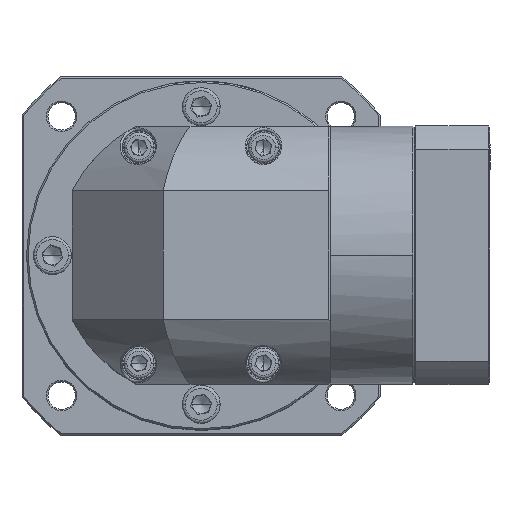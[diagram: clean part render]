
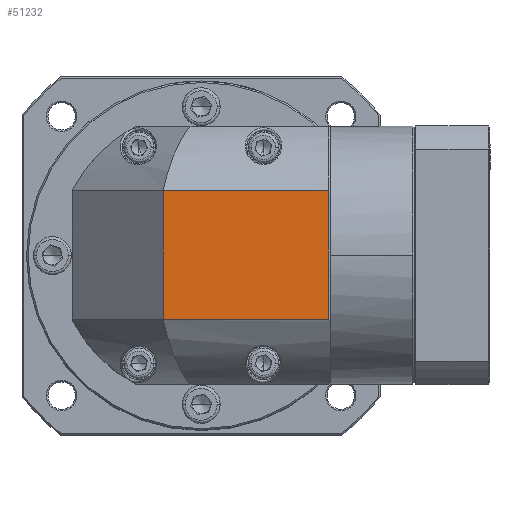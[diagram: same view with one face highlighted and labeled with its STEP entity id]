
A CAD part, top view. The second image highlights one B-rep face of the part: STEP entity #51232.
In plain terms, the highlighted planar face has unit normal (0, 0, 1).
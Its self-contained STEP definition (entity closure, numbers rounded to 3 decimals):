
#5445 = VERTEX_POINT ( 'NONE', #49149 ) ;
#5704 = VERTEX_POINT ( 'NONE', #84840 ) ;
#15546 = VERTEX_POINT ( 'NONE', #75317 ) ;
#18154 = EDGE_CURVE ( 'NONE', #5445, #18673, #114329, .T. ) ;
#18673 = VERTEX_POINT ( 'NONE', #110952 ) ;
#20150 = EDGE_LOOP ( 'NONE', ( #41122, #37899, #115408, #139050 ) ) ;
#21915 = DIRECTION ( 'NONE',  ( 0., 0., 1. ) ) ;
#23296 = DIRECTION ( 'NONE',  ( 1., 0., 0. ) ) ;
#23613 = VECTOR ( 'NONE', #60283, 1000. ) ;
#29748 = EDGE_CURVE ( 'NONE', #15546, #18673, #37998, .T. ) ;
#33486 = DIRECTION ( 'NONE',  ( 0., 1., 0. ) ) ;
#37899 = ORIENTED_EDGE ( 'NONE', *, *, #112450, .F. ) ;
#37998 = LINE ( 'NONE', #78878, #49879 ) ;
#41122 = ORIENTED_EDGE ( 'NONE', *, *, #29748, .F. ) ;
#49149 = CARTESIAN_POINT ( 'NONE',  ( 72.726, 76.967, 48.763 ) ) ;
#49879 = VECTOR ( 'NONE', #78393, 1000. ) ;
#51144 = VECTOR ( 'NONE', #33486, 1000. ) ;
#51232 = ADVANCED_FACE ( 'NONE', ( #83300 ), #88983, .T. ) ;
#52324 = EDGE_CURVE ( 'NONE', #5445, #5704, #137065, .T. ) ;
#52556 = LINE ( 'NONE', #113239, #23613 ) ;
#55028 = CARTESIAN_POINT ( 'NONE',  ( -27.274, 76.967, 48.763 ) ) ;
#56113 = CARTESIAN_POINT ( 'NONE',  ( 30.726, 98.18, 48.763 ) ) ;
#58838 = VECTOR ( 'NONE', #131154, 1000. ) ;
#60283 = DIRECTION ( 'NONE',  ( 0., 1., 0. ) ) ;
#75317 = CARTESIAN_POINT ( 'NONE',  ( 18.226, 119.393, 48.763 ) ) ;
#78393 = DIRECTION ( 'NONE',  ( 1., 0., 0. ) ) ;
#78878 = CARTESIAN_POINT ( 'NONE',  ( -27.274, 119.393, 48.763 ) ) ;
#83300 = FACE_OUTER_BOUND ( 'NONE', #20150, .T. ) ;
#84840 = CARTESIAN_POINT ( 'NONE',  ( 18.226, 76.967, 48.763 ) ) ;
#88983 = PLANE ( 'NONE',  #97209 ) ;
#97209 = AXIS2_PLACEMENT_3D ( 'NONE', #56113, #21915, #23296 ) ;
#98725 = CARTESIAN_POINT ( 'NONE',  ( 72.726, 98.18, 48.763 ) ) ;
#110952 = CARTESIAN_POINT ( 'NONE',  ( 72.726, 119.393, 48.763 ) ) ;
#112450 = EDGE_CURVE ( 'NONE', #5704, #15546, #52556, .T. ) ;
#113239 = CARTESIAN_POINT ( 'NONE',  ( 18.226, 98.18, 48.763 ) ) ;
#114329 = LINE ( 'NONE', #98725, #51144 ) ;
#115408 = ORIENTED_EDGE ( 'NONE', *, *, #52324, .F. ) ;
#131154 = DIRECTION ( 'NONE',  ( -1., 0., 0. ) ) ;
#137065 = LINE ( 'NONE', #55028, #58838 ) ;
#139050 = ORIENTED_EDGE ( 'NONE', *, *, #18154, .T. ) ;
